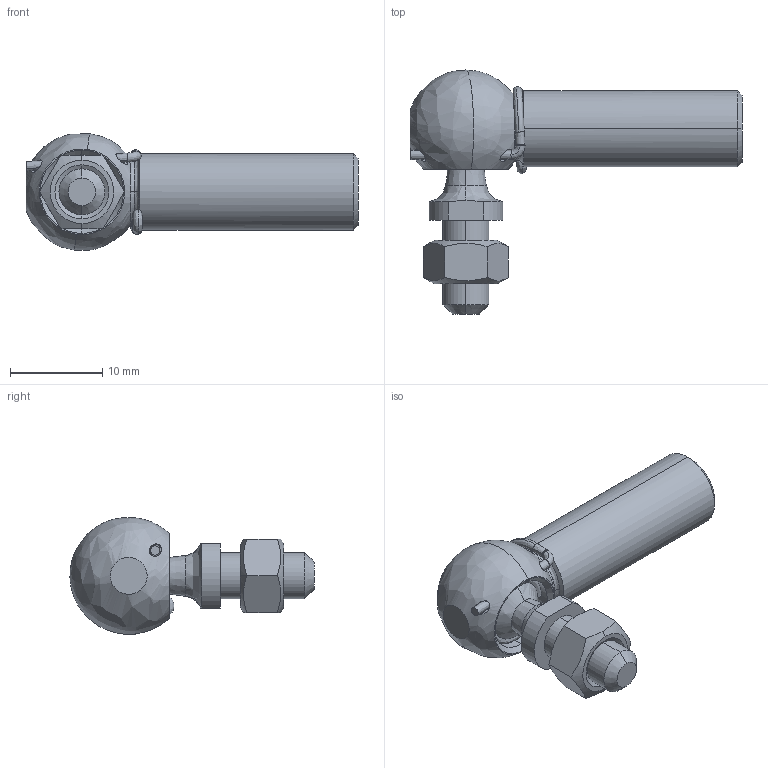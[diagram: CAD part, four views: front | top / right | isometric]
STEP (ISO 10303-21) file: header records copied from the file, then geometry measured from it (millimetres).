
FILE_DESCRIPTION (( 'STEP AP214' ), '1' );
FILE_NAME ('13.CS8M5L30.STEP', '2017-10-28T09:47:53', ( '' ), ( '' ), 'SwSTEP 2.0', 'SolidWorks 2016', '' );
FILE_SCHEMA (( 'AUTOMOTIVE_DESIGN' ));
Length unit declared in the file: millimetre
Products named in the file (1): 13.CS8M5L30
Bounding box: 36.08 x 26.53 x 12.69 mm (x, y, z)
Volume: 2469 mm3; surface area: 2286.9 mm2
Topology: 1 solids, 1 shells, 106 faces, 317 edges, 203 vertices
Faces by surface type: bspline 39, cone 23, plane 23, cylinder 21
Entity records: 5234 total; most frequent: CARTESIAN_POINT 2704, ORIENTED_EDGE 614, DIRECTION 429, EDGE_CURVE 307, VERTEX_POINT 203, AXIS2_PLACEMENT_3D 183, EDGE_LOOP 118, CIRCLE 115
